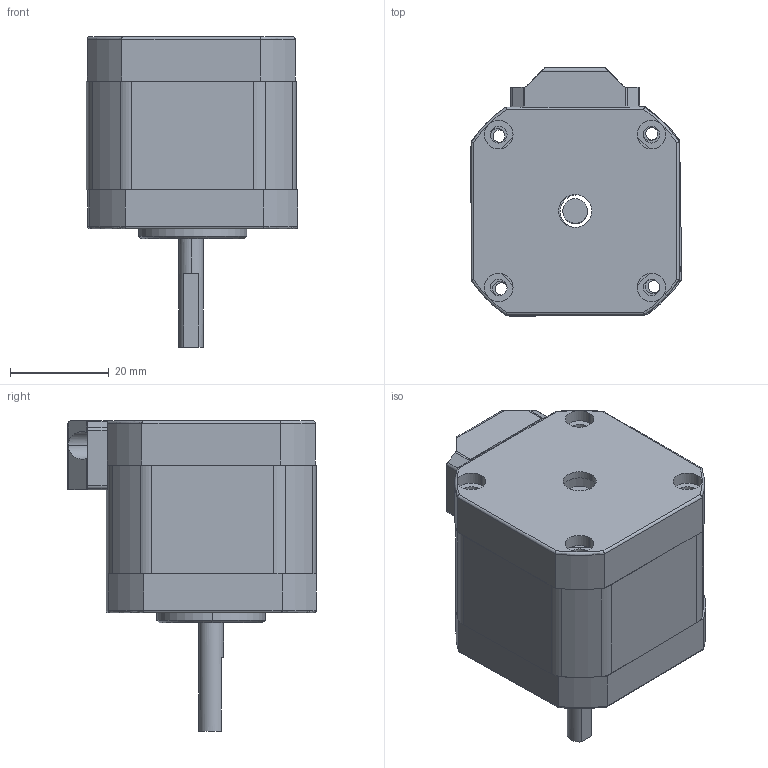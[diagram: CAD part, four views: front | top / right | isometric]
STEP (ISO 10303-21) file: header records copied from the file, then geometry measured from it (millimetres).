
FILE_DESCRIPTION (( 'STEP AP214' ), '1' );
FILE_NAME ('42CM04.STEP', '2024-12-13T07:23:26', ( 'MM' ), ( 'Microsoft' ), 'SwSTEP 2.0', 'SolidWorks 2020', '' );
FILE_SCHEMA (( 'AUTOMOTIVE_DESIGN' ));
Length unit declared in the file: millimetre
Products named in the file (7): 蛌粣; 42CM04; 蛌赽郪璃; 4B0421004 42-22-1.8 隅赽_42--30-1.8 隅赽; 42 等謂揤盄輸; 4B0420004 电泳后盖_电泳后盖; 4B0420003 萇蚞ヶ裔_萇蚞ヶ裔
Assembly tree (6 placements, depth 3):
  42CM04
    4B0420004 电泳后盖_电泳后盖
    蛌赽郪璃
      蛌粣
    4B0421004 42-22-1.8 隅赽_42--30-1.8 隅赽
    4B0420003 萇蚞ヶ裔_萇蚞ヶ裔
    42 等謂揤盄輸
Bounding box: 42.92 x 50.41 x 63 mm (x, y, z)
Volume: 35093.5 mm3; surface area: 31010.6 mm2
Topology: 6 solids, 6 shells, 698 faces, 1966 edges, 1293 vertices
Faces by surface type: cylinder 438, plane 237, torus 12, cone 10, bspline 1
Entity records: 23821 total; most frequent: CARTESIAN_POINT 4259, DIRECTION 4159, ORIENTED_EDGE 3932, EDGE_CURVE 1966, AXIS2_PLACEMENT_3D 1552, VERTEX_POINT 1293, VECTOR 1055, LINE 1055
